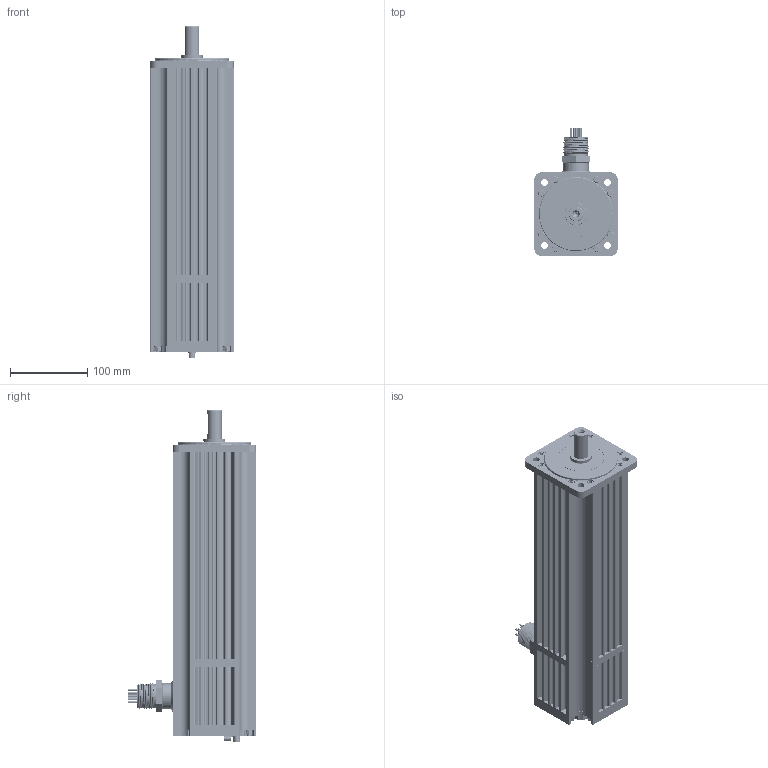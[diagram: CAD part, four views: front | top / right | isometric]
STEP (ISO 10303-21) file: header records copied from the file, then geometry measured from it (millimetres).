
FILE_DESCRIPTION (( 'STEP AP203' ), '1' );
FILE_NAME ('074637A.step', '2022-06-13T18:33:12', ( '' ), ( '' ), 'SwSTEP 2.0', 'SolidWorks 2019', '' );
FILE_SCHEMA (( 'CONFIG_CONTROL_DESIGN' ));
Products named in the file (1): 074637A
Bounding box: 108 x 166.17 x 428.57 mm (x, y, z)
Volume: 2781801.7 mm3; surface area: 752969.5 mm2
Topology: 136 solids, 136 shells, 5372 faces, 13413 edges, 8549 vertices
Faces by surface type: plane 2341, cylinder 1960, cone 504, bspline 348, torus 199, sphere 20
Entity records: 195435 total; most frequent: CARTESIAN_POINT 67374, DIRECTION 26631, ORIENTED_EDGE 26570, EDGE_CURVE 13285, AXIS2_PLACEMENT_3D 9653, VERTEX_POINT 8549, VECTOR 7325, LINE 7325
